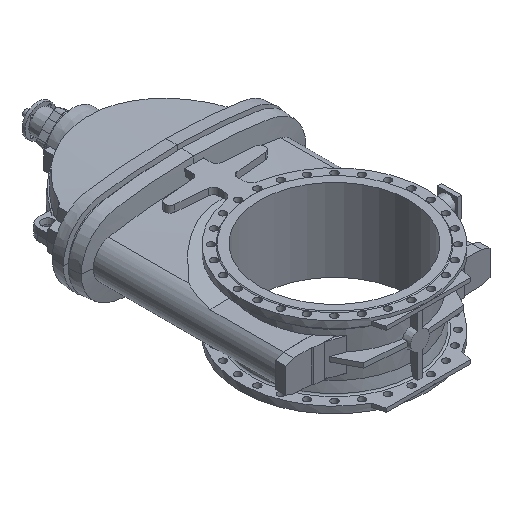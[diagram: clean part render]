
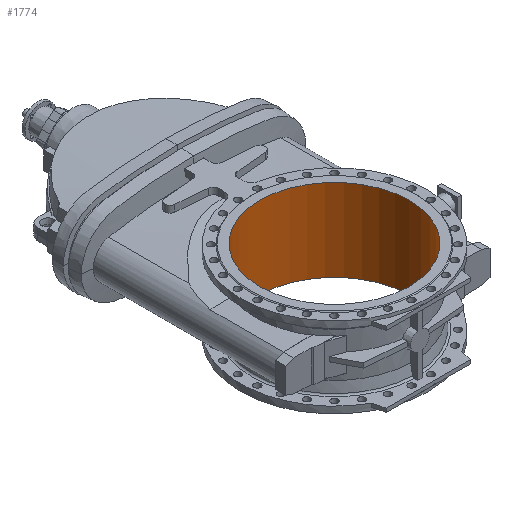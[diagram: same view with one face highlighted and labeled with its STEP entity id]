
A CAD part, isometric view. The second image highlights one B-rep face of the part: STEP entity #1774.
In plain terms, the highlighted cylindrical face has radius 500 mm (diameter 1000 mm), a full revolution.
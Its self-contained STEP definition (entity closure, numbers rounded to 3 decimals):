
#1774 = ADVANCED_FACE ( 'NONE', ( #7437, #7442 ), #7444, .F. ) ;
#4160 = AXIS2_PLACEMENT_3D ( 'NONE', #11589, #11594, #11586 ) ;
#4397 = AXIS2_PLACEMENT_3D ( 'NONE', #10168, #10170, #10172 ) ;
#4435 = AXIS2_PLACEMENT_3D ( 'NONE', #11713, #11715, #11718 ) ;
#5854 = ORIENTED_EDGE ( 'NONE', *, *, #16979, .T. ) ;
#5945 = ORIENTED_EDGE ( 'NONE', *, *, #17092, .F. ) ;
#7437 = FACE_OUTER_BOUND ( 'NONE', #15413, .T. ) ;
#7442 = FACE_OUTER_BOUND ( 'NONE', #15412, .T. ) ;
#7444 = CYLINDRICAL_SURFACE ( 'NONE', #4160, 500. ) ;
#8622 = CIRCLE ( 'NONE', #4397, 500. ) ;
#8755 = CIRCLE ( 'NONE', #4435, 500. ) ;
#9068 = VERTEX_POINT ( 'NONE', #13021 ) ;
#9081 = VERTEX_POINT ( 'NONE', #13034 ) ;
#10168 = CARTESIAN_POINT ( 'NONE',  ( 0., 0., -275. ) ) ;
#10170 = DIRECTION ( 'NONE',  ( 0., 0., -1. ) ) ;
#10172 = DIRECTION ( 'NONE',  ( 1., 0., 0. ) ) ;
#11586 = DIRECTION ( 'NONE',  ( -1., 0., 0. ) ) ;
#11589 = CARTESIAN_POINT ( 'NONE',  ( 0., 0., 2259.639 ) ) ;
#11594 = DIRECTION ( 'NONE',  ( 0., 0., -1. ) ) ;
#11713 = CARTESIAN_POINT ( 'NONE',  ( 0., 0., 275. ) ) ;
#11715 = DIRECTION ( 'NONE',  ( 0., 0., -1. ) ) ;
#11718 = DIRECTION ( 'NONE',  ( 1., 0., 0. ) ) ;
#13021 = CARTESIAN_POINT ( 'NONE',  ( 500., 0., -275. ) ) ;
#13034 = CARTESIAN_POINT ( 'NONE',  ( 500., 0., 275. ) ) ;
#15412 = EDGE_LOOP ( 'NONE', ( #5945 ) ) ;
#15413 = EDGE_LOOP ( 'NONE', ( #5854 ) ) ;
#16979 = EDGE_CURVE ( 'NONE', #9068, #9068, #8622, .T. ) ;
#17092 = EDGE_CURVE ( 'NONE', #9081, #9081, #8755, .T. ) ;
